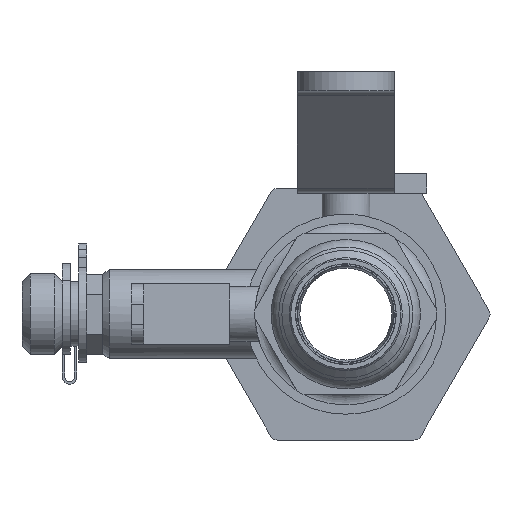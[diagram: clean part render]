
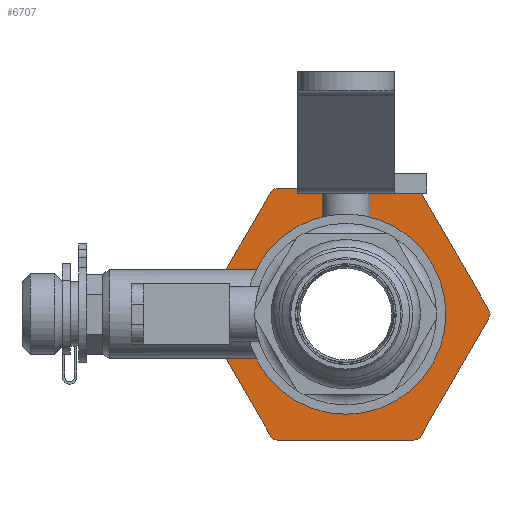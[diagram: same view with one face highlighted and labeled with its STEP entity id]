
A CAD part, left-side view. The second image highlights one B-rep face of the part: STEP entity #6707.
In plain terms, the highlighted planar face has unit normal (-1, 0, 0) as drawn and (1, 0, 0) by its records, which use the part's own axes.
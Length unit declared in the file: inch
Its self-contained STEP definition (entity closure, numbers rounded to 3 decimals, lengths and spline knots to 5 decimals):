
#112=FACE_BOUND('',#789,.T.);
#183=PLANE('',#7278);
#434=FACE_OUTER_BOUND('',#788,.T.);
#788=EDGE_LOOP('',(#4462,#4463,#4464,#4465,#4466,#4467,#4468,#4469,#4470,
#4471,#4472,#4473));
#789=EDGE_LOOP('',(#4474,#4475,#4476,#4477,#4478,#4479,#4480,#4481,#4482,
#4483,#4484,#4485));
#1163=LINE('',#9983,#1758);
#1168=LINE('',#10001,#1763);
#1175=LINE('',#10019,#1770);
#1180=LINE('',#10037,#1775);
#1186=LINE('',#10052,#1781);
#1187=LINE('',#10055,#1782);
#1212=LINE('',#10134,#1807);
#1215=LINE('',#10142,#1810);
#1218=LINE('',#10150,#1813);
#1221=LINE('',#10158,#1816);
#1224=LINE('',#10166,#1819);
#1227=LINE('',#10173,#1822);
#1758=VECTOR('',#7949,0.3937);
#1763=VECTOR('',#7968,0.3937);
#1770=VECTOR('',#7985,0.3937);
#1775=VECTOR('',#8004,0.3937);
#1781=VECTOR('',#8018,0.3937);
#1782=VECTOR('',#8021,0.3937);
#1807=VECTOR('',#8098,0.3937);
#1810=VECTOR('',#8107,0.3937);
#1813=VECTOR('',#8116,0.3937);
#1816=VECTOR('',#8125,0.3937);
#1819=VECTOR('',#8134,0.3937);
#1822=VECTOR('',#8143,0.3937);
#2346=CIRCLE('',#7206,0.025);
#2350=CIRCLE('',#7214,0.025);
#2354=CIRCLE('',#7221,0.025);
#2356=CIRCLE('',#7226,0.025);
#2360=CIRCLE('',#7233,0.025);
#2362=CIRCLE('',#7238,0.025);
#2376=CIRCLE('',#7261,0.05);
#2377=CIRCLE('',#7264,0.05);
#2378=CIRCLE('',#7267,0.05);
#2379=CIRCLE('',#7270,0.05);
#2380=CIRCLE('',#7273,0.05);
#2381=CIRCLE('',#7276,0.05);
#2694=VERTEX_POINT('',#9958);
#2695=VERTEX_POINT('',#9959);
#2704=VERTEX_POINT('',#9982);
#2706=VERTEX_POINT('',#9988);
#2710=VERTEX_POINT('',#10000);
#2712=VERTEX_POINT('',#10006);
#2716=VERTEX_POINT('',#10018);
#2718=VERTEX_POINT('',#10024);
#2722=VERTEX_POINT('',#10036);
#2724=VERTEX_POINT('',#10042);
#2727=VERTEX_POINT('',#10050);
#2728=VERTEX_POINT('',#10054);
#2754=VERTEX_POINT('',#10127);
#2755=VERTEX_POINT('',#10129);
#2756=VERTEX_POINT('',#10133);
#2757=VERTEX_POINT('',#10137);
#2758=VERTEX_POINT('',#10141);
#2759=VERTEX_POINT('',#10145);
#2760=VERTEX_POINT('',#10149);
#2761=VERTEX_POINT('',#10153);
#2762=VERTEX_POINT('',#10157);
#2763=VERTEX_POINT('',#10161);
#2764=VERTEX_POINT('',#10165);
#2765=VERTEX_POINT('',#10169);
#3336=EDGE_CURVE('',#2694,#2695,#2346,.T.);
#3347=EDGE_CURVE('',#2695,#2704,#1163,.T.);
#3350=EDGE_CURVE('',#2704,#2706,#2350,.T.);
#3356=EDGE_CURVE('',#2710,#2694,#1168,.T.);
#3359=EDGE_CURVE('',#2712,#2710,#2354,.T.);
#3365=EDGE_CURVE('',#2706,#2716,#1175,.T.);
#3368=EDGE_CURVE('',#2716,#2718,#2356,.T.);
#3374=EDGE_CURVE('',#2722,#2712,#1180,.T.);
#3377=EDGE_CURVE('',#2724,#2722,#2360,.T.);
#3382=EDGE_CURVE('',#2718,#2727,#1186,.T.);
#3383=EDGE_CURVE('',#2728,#2724,#1187,.T.);
#3386=EDGE_CURVE('',#2727,#2728,#2362,.T.);
#3421=EDGE_CURVE('',#2755,#2754,#2376,.T.);
#3423=EDGE_CURVE('',#2756,#2755,#1212,.T.);
#3425=EDGE_CURVE('',#2757,#2756,#2377,.T.);
#3427=EDGE_CURVE('',#2758,#2757,#1215,.T.);
#3429=EDGE_CURVE('',#2759,#2758,#2378,.T.);
#3431=EDGE_CURVE('',#2760,#2759,#1218,.T.);
#3433=EDGE_CURVE('',#2761,#2760,#2379,.T.);
#3435=EDGE_CURVE('',#2762,#2761,#1221,.T.);
#3437=EDGE_CURVE('',#2763,#2762,#2380,.T.);
#3439=EDGE_CURVE('',#2764,#2763,#1224,.T.);
#3441=EDGE_CURVE('',#2765,#2764,#2381,.T.);
#3443=EDGE_CURVE('',#2754,#2765,#1227,.T.);
#4462=ORIENTED_EDGE('',*,*,#3443,.T.);
#4463=ORIENTED_EDGE('',*,*,#3441,.T.);
#4464=ORIENTED_EDGE('',*,*,#3439,.T.);
#4465=ORIENTED_EDGE('',*,*,#3437,.T.);
#4466=ORIENTED_EDGE('',*,*,#3435,.T.);
#4467=ORIENTED_EDGE('',*,*,#3433,.T.);
#4468=ORIENTED_EDGE('',*,*,#3431,.T.);
#4469=ORIENTED_EDGE('',*,*,#3429,.T.);
#4470=ORIENTED_EDGE('',*,*,#3427,.T.);
#4471=ORIENTED_EDGE('',*,*,#3425,.T.);
#4472=ORIENTED_EDGE('',*,*,#3423,.T.);
#4473=ORIENTED_EDGE('',*,*,#3421,.T.);
#4474=ORIENTED_EDGE('',*,*,#3383,.T.);
#4475=ORIENTED_EDGE('',*,*,#3377,.T.);
#4476=ORIENTED_EDGE('',*,*,#3374,.T.);
#4477=ORIENTED_EDGE('',*,*,#3359,.T.);
#4478=ORIENTED_EDGE('',*,*,#3356,.T.);
#4479=ORIENTED_EDGE('',*,*,#3336,.T.);
#4480=ORIENTED_EDGE('',*,*,#3347,.T.);
#4481=ORIENTED_EDGE('',*,*,#3350,.T.);
#4482=ORIENTED_EDGE('',*,*,#3365,.T.);
#4483=ORIENTED_EDGE('',*,*,#3368,.T.);
#4484=ORIENTED_EDGE('',*,*,#3382,.T.);
#4485=ORIENTED_EDGE('',*,*,#3386,.T.);
#6707=ADVANCED_FACE('',(#434,#112),#183,.T.);
#7206=AXIS2_PLACEMENT_3D('',#9960,#7928,#7929);
#7214=AXIS2_PLACEMENT_3D('',#9989,#7954,#7955);
#7221=AXIS2_PLACEMENT_3D('',#10007,#7973,#7974);
#7226=AXIS2_PLACEMENT_3D('',#10025,#7990,#7991);
#7233=AXIS2_PLACEMENT_3D('',#10043,#8009,#8010);
#7238=AXIS2_PLACEMENT_3D('',#10060,#8026,#8027);
#7261=AXIS2_PLACEMENT_3D('',#10130,#8093,#8094);
#7264=AXIS2_PLACEMENT_3D('',#10138,#8102,#8103);
#7267=AXIS2_PLACEMENT_3D('',#10146,#8111,#8112);
#7270=AXIS2_PLACEMENT_3D('',#10154,#8120,#8121);
#7273=AXIS2_PLACEMENT_3D('',#10162,#8129,#8130);
#7276=AXIS2_PLACEMENT_3D('',#10170,#8138,#8139);
#7278=AXIS2_PLACEMENT_3D('',#10174,#8144,#8145);
#7928=DIRECTION('center_axis',(-1.,0.,0.));
#7929=DIRECTION('ref_axis',(0.,-0.5,0.866));
#7949=DIRECTION('',(0.,-0.866,-0.5));
#7954=DIRECTION('center_axis',(-1.,0.,0.));
#7955=DIRECTION('ref_axis',(0.,0.5,0.866));
#7968=DIRECTION('',(0.,0.,-1.));
#7973=DIRECTION('center_axis',(-1.,0.,0.));
#7974=DIRECTION('ref_axis',(0.,-1.,0.));
#7985=DIRECTION('',(0.,-0.866,0.5));
#7990=DIRECTION('center_axis',(-1.,0.,0.));
#7991=DIRECTION('ref_axis',(0.,1.,0.));
#8004=DIRECTION('',(0.,0.866,-0.5));
#8009=DIRECTION('center_axis',(-1.,0.,0.));
#8010=DIRECTION('ref_axis',(0.,-0.5,-0.866));
#8018=DIRECTION('',(0.,0.,1.));
#8021=DIRECTION('',(0.,0.866,0.5));
#8026=DIRECTION('center_axis',(-1.,0.,0.));
#8027=DIRECTION('ref_axis',(0.,0.5,-0.866));
#8093=DIRECTION('center_axis',(1.,0.,0.));
#8094=DIRECTION('ref_axis',(0.,0.,1.));
#8098=DIRECTION('',(0.,1.,0.));
#8102=DIRECTION('center_axis',(1.,0.,0.));
#8103=DIRECTION('ref_axis',(0.,0.866,0.5));
#8107=DIRECTION('',(0.,0.5,-0.866));
#8111=DIRECTION('center_axis',(1.,0.,0.));
#8112=DIRECTION('ref_axis',(0.,0.866,-0.5));
#8116=DIRECTION('',(0.,-0.5,-0.866));
#8120=DIRECTION('center_axis',(1.,0.,0.));
#8121=DIRECTION('ref_axis',(0.,0.,-1.));
#8125=DIRECTION('',(0.,-1.,0.));
#8129=DIRECTION('center_axis',(1.,0.,0.));
#8130=DIRECTION('ref_axis',(0.,-0.866,-0.5));
#8134=DIRECTION('',(0.,-0.5,0.866));
#8138=DIRECTION('center_axis',(1.,0.,0.));
#8139=DIRECTION('ref_axis',(0.,-0.866,0.5));
#8143=DIRECTION('',(0.,0.5,0.866));
#8144=DIRECTION('center_axis',(1.,0.,0.));
#8145=DIRECTION('ref_axis',(0.,0.,-1.));
#9958=CARTESIAN_POINT('',(0.26167,0.525,-0.28868));
#9959=CARTESIAN_POINT('',(0.26167,0.5125,-0.31033));
#9960=CARTESIAN_POINT('Origin',(0.26167,0.5,-0.28868));
#9982=CARTESIAN_POINT('',(0.26167,0.0125,-0.599));
#9983=CARTESIAN_POINT('',(0.26167,0.3875,-0.38249));
#9988=CARTESIAN_POINT('',(0.26167,-0.0125,-0.599));
#9989=CARTESIAN_POINT('Origin',(0.26167,0.,
-0.57735));
#10000=CARTESIAN_POINT('',(0.26167,0.525,0.28868));
#10001=CARTESIAN_POINT('',(0.26167,0.525,0.14434));
#10006=CARTESIAN_POINT('',(0.26167,0.5125,0.31033));
#10007=CARTESIAN_POINT('Origin',(0.26167,0.5,0.28868));
#10018=CARTESIAN_POINT('',(0.26167,-0.5125,-0.31033));
#10019=CARTESIAN_POINT('',(0.26167,-0.1375,-0.52683));
#10024=CARTESIAN_POINT('',(0.26167,-0.525,-0.28868));
#10025=CARTESIAN_POINT('Origin',(0.26167,-0.5,-0.28868));
#10036=CARTESIAN_POINT('',(0.26167,0.0125,0.599));
#10037=CARTESIAN_POINT('',(0.26167,0.1375,0.52683));
#10042=CARTESIAN_POINT('',(0.26167,-0.0125,0.599));
#10043=CARTESIAN_POINT('Origin',(0.26167,0.,
0.57735));
#10050=CARTESIAN_POINT('',(0.26167,-0.525,0.28868));
#10052=CARTESIAN_POINT('',(0.26167,-0.525,-0.14434));
#10054=CARTESIAN_POINT('',(0.26167,-0.5125,0.31033));
#10055=CARTESIAN_POINT('',(0.26167,-0.3875,0.38249));
#10060=CARTESIAN_POINT('Origin',(0.26167,-0.5,0.28868));
#10127=CARTESIAN_POINT('',(0.26167,0.46477,-0.755));
#10129=CARTESIAN_POINT('',(0.26167,0.42147,-0.78));
#10130=CARTESIAN_POINT('Origin',(0.26167,0.42147,-0.73));
#10133=CARTESIAN_POINT('',(0.26167,-0.42147,-0.78));
#10134=CARTESIAN_POINT('',(0.26167,0.42147,-0.78));
#10137=CARTESIAN_POINT('',(0.26167,-0.46477,-0.755));
#10138=CARTESIAN_POINT('Origin',(0.26167,-0.42147,-0.73));
#10141=CARTESIAN_POINT('',(0.26167,-0.88623,-0.025));
#10142=CARTESIAN_POINT('',(0.26167,-0.46477,-0.755));
#10145=CARTESIAN_POINT('',(0.26167,-0.88623,0.025));
#10146=CARTESIAN_POINT('Origin',(0.26167,-0.84293,0.));
#10149=CARTESIAN_POINT('',(0.26167,-0.46477,0.755));
#10150=CARTESIAN_POINT('',(0.26167,-0.88623,0.025));
#10153=CARTESIAN_POINT('',(0.26167,-0.42147,0.78));
#10154=CARTESIAN_POINT('Origin',(0.26167,-0.42147,0.73));
#10157=CARTESIAN_POINT('',(0.26167,0.42147,0.78));
#10158=CARTESIAN_POINT('',(0.26167,-0.42147,0.78));
#10161=CARTESIAN_POINT('',(0.26167,0.46477,0.755));
#10162=CARTESIAN_POINT('Origin',(0.26167,0.42147,0.73));
#10165=CARTESIAN_POINT('',(0.26167,0.88623,0.025));
#10166=CARTESIAN_POINT('',(0.26167,0.46477,0.755));
#10169=CARTESIAN_POINT('',(0.26167,0.88623,-0.025));
#10170=CARTESIAN_POINT('Origin',(0.26167,0.84293,0.));
#10173=CARTESIAN_POINT('',(0.26167,0.88623,-0.025));
#10174=CARTESIAN_POINT('Origin',(0.26167,0.,
0.));
